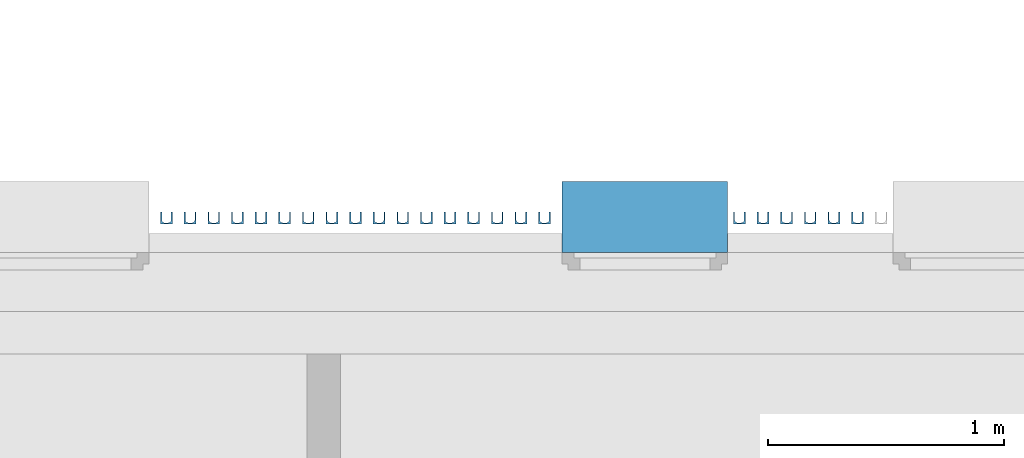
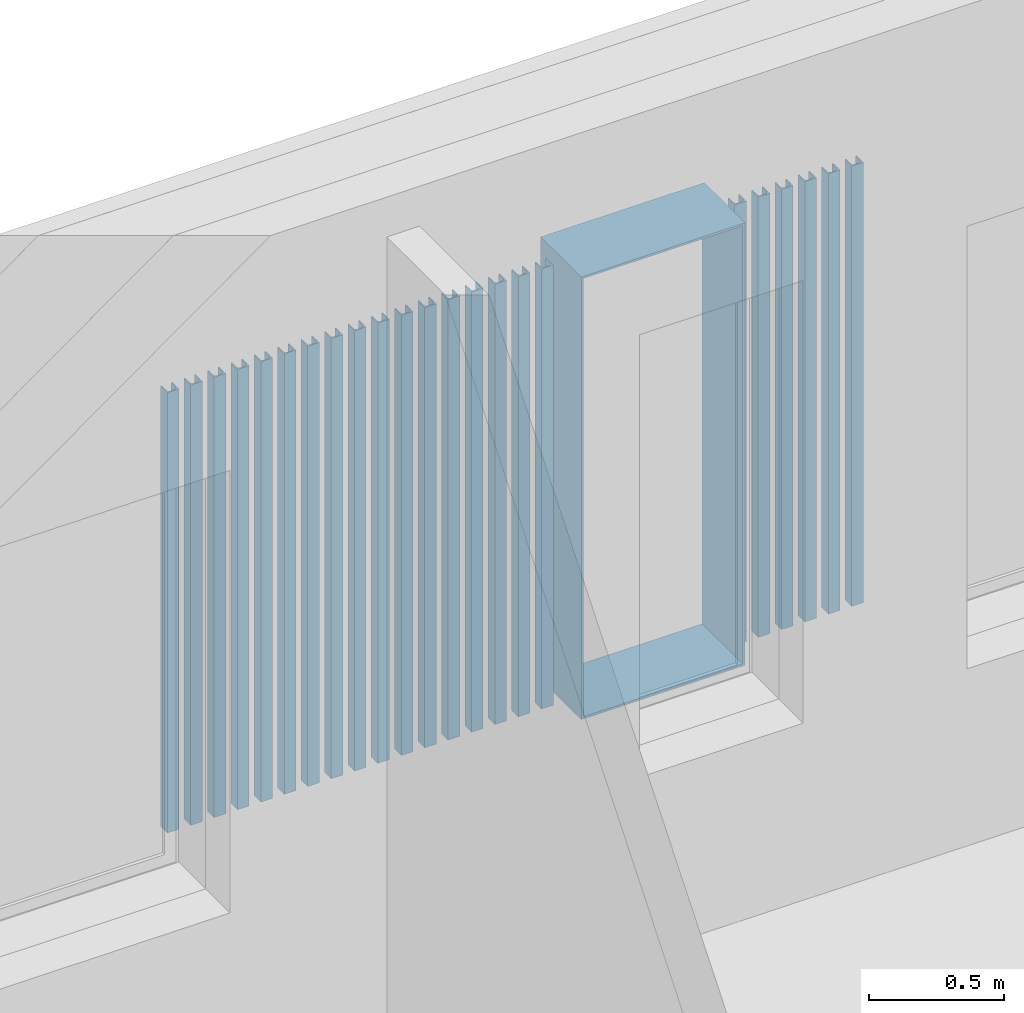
# One storey, part 22 of 100: 24 discrete accessories.
"""IFC2X3 building model written with IfcOpenShell, lengths in millimetres."""

from ifc_helpers import new_model, entity, si_unit, converted_unit, derived_unit, money_unit, direction, frame, origin_with_axes, place, context, subcontext, project, spatial, faceted_brep, source, transform, mapped, material, type_object, element, save


model = new_model("IFC2X3")

# Units and contexts
model_context = context("Model", 3, precision=0.01, world=origin_with_axes(), true_north=direction((0.0, 1.0)))
body_context = subcontext(model_context, "Body", "Model", "MODEL_VIEW")
ifc_project = project(units=[si_unit("LENGTHUNIT", "METRE", prefix="MILLI"), si_unit("AREAUNIT", "SQUARE_METRE"), si_unit("VOLUMEUNIT", "CUBIC_METRE"), converted_unit("PLANEANGLEUNIT", "DEGREE", entity("IfcPlaneAngleMeasure", 0.0174532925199), si_unit("PLANEANGLEUNIT", "RADIAN"), dimensions=[0, 0, 0, 0, 0, 0, 0]), si_unit("SOLIDANGLEUNIT", "STERADIAN"), money_unit("EUR"), converted_unit("TIMEUNIT", "Year", entity("IfcTimeMeasure", 31556926.0), si_unit("TIMEUNIT", "SECOND"), dimensions=[0, 0, 1, 0, 0, 0, 0]), si_unit("MASSUNIT", "GRAM", prefix="KILO"), si_unit("THERMODYNAMICTEMPERATUREUNIT", "DEGREE_CELSIUS"), si_unit("LUMINOUSINTENSITYUNIT", "LUMEN"), si_unit("ENERGYUNIT", "JOULE", prefix="MEGA"), derived_unit("THERMALCONDUCTANCEUNIT", [(si_unit("POWERUNIT", "WATT"), 1), (si_unit("LENGTHUNIT", "METRE"), -1), (si_unit("THERMODYNAMICTEMPERATUREUNIT", "KELVIN"), -1)]), derived_unit("SPECIFICHEATCAPACITYUNIT", [(si_unit("ENERGYUNIT", "JOULE"), 1), (si_unit("MASSUNIT", "GRAM", prefix="KILO"), -1), (si_unit("THERMODYNAMICTEMPERATUREUNIT", "KELVIN"), -1)]), derived_unit("MASSDENSITYUNIT", [(si_unit("MASSUNIT", "GRAM", prefix="KILO"), 1), (si_unit("VOLUMEUNIT", "CUBIC_METRE"), -1)])], contexts=[model_context])

# Site, building, storey
site_placement = place(None, origin_with_axes())
site = spatial("IfcSite", under=ifc_project, at=site_placement, Name="Politse- ja Piirivalveameti ning Päästeameti ühishoone", CompositionType="ELEMENT")
building_placement = place(site_placement, origin_with_axes())
building = spatial("IfcBuilding", under=site, at=building_placement, Name="Politse- ja Piirivalveameti ning Päästeameti ühishoone", CompositionType="ELEMENT")
storey_placement = place(building_placement, frame((0.0, 0.0, 3800.0), z_axis=(0.0, 0.0, 1.0), x_axis=(1.0, 0.0, 0.0)))
storey = spatial("IfcBuildingStorey", under=building, at=storey_placement, Name="Teine korrus", CompositionType="ELEMENT", Elevation=3800.0)

# Discrete accessories
ifc_material_1 = material(Name="SV-01_Krohv - Kips")
discrete_accessory_type_1 = type_object("IfcDiscreteAccessoryType", Name="Architrave 01 23")
shared_shape_1 = source(origin_with_axes(), body_context, "Body", "Brep", [
    faceted_brep([(350.0, 0.0, -10.0), (350.0, -300.182356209, -10.0), (-350.0, -300.182356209, -10.0), (-350.0, 0.0, -10.0), (340.0, 0.0, 0.0), (340.0, -300.182356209, 0.0), (-340.0, -300.182356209, 0.0), (-340.0, 0.0, 0.0)], [[[0, 1, 2, 3]], [[4, 5, 1, 0]], [[1, 5, 6, 2]], [[3, 2, 6, 7]], [[0, 3, 7, 4]], [[7, 6, 5, 4]]]),
    faceted_brep([(-350.0, 0.0, -10.0), (-350.0, -300.182356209, -10.0), (-350.0, -300.182356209, 1990.0), (-350.0, 0.0, 1990.0), (-340.0, 0.0, 0.0), (-340.0, -300.182356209, 0.0), (-340.0, -300.182356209, 1980.0), (-340.0, 0.0, 1980.0)], [[[0, 1, 2, 3]], [[4, 5, 1, 0]], [[1, 5, 6, 2]], [[3, 2, 6, 7]], [[0, 3, 7, 4]], [[7, 6, 5, 4]]]),
    faceted_brep([(-350.0, 0.0, 1990.0), (-350.0, -300.182356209, 1990.0), (350.0, -300.182356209, 1990.0), (350.0, 0.0, 1990.0), (-340.0, 0.0, 1980.0), (-340.0, -300.182356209, 1980.0), (340.0, -300.182356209, 1980.0), (340.0, 0.0, 1980.0)], [[[0, 1, 2, 3]], [[4, 5, 1, 0]], [[1, 5, 6, 2]], [[3, 2, 6, 7]], [[0, 3, 7, 4]], [[7, 6, 5, 4]]]),
    faceted_brep([(350.0, 0.0, 1990.0), (350.0, -300.182356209, 1990.0), (350.0, -300.182356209, -10.0), (350.0, 0.0, -10.0), (340.0, 0.0, 1980.0), (340.0, -300.182356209, 1980.0), (340.0, -300.182356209, 0.0), (340.0, 0.0, 0.0)], [[[0, 1, 2, 3]], [[4, 5, 1, 0]], [[1, 5, 6, 2]], [[3, 2, 6, 7]], [[0, 3, 7, 4]], [[7, 6, 5, 4]]]),
])
discrete_accessory_placement = place(storey_placement, frame((28708.8836062, 21429.9520832, 810.0), z_axis=(0.0, 0.0, 1.0), x_axis=(-1.0, 0.0, 0.0)))
element("IfcDiscreteAccessory", 1, at=discrete_accessory_placement, inside=storey, type_object=discrete_accessory_type_1, material=ifc_material_1, Name="AKNARAAM 01", context=body_context, shape_type="MappedRepresentation", body=[
    mapped(shared_shape_1, transform((0.0, 0.0, 0.0))),
])
ifc_material_2 = material(Name="ET-05_Teras")
discrete_accessory_type_2 = type_object("IfcDiscreteAccessoryType", Name="UAP Column 23")
shared_shape_2 = source(origin_with_axes(), body_context, "Body", "Brep", [
    faceted_brep([(-25.0, -25.0, 0.0), (-25.0, -25.0, 1990.0), (-25.0, -20.0, 1990.0), (-25.0, -20.0, 0.0), (25.0, -25.0, 0.0), (25.0, -25.0, 1990.0), (25.0, 25.0, 1990.0), (-25.0, 25.0, 1990.0), (-25.0, 20.0, 1990.0), (8.5, 20.0, 1990.0), (14.25, 18.4592921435, 1990.0), (18.4592921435, 14.25, 1990.0), (20.0, 8.5, 1990.0), (20.0, -8.5, 1990.0), (18.4592921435, -14.25, 1990.0), (14.25, -18.4592921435, 1990.0), (8.5, -20.0, 1990.0), (8.5, -20.0, 0.0), (14.25, -18.4592921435, 0.0), (18.4592921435, -14.25, 0.0), (20.0, -8.5, 0.0), (20.0, 8.5, 0.0), (18.4592921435, 14.25, 0.0), (14.25, 18.4592921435, 0.0), (8.5, 20.0, 0.0), (-25.0, 20.0, 0.0), (-25.0, 25.0, 0.0), (25.0, 25.0, 0.0)], [[[0, 1, 2, 3]], [[4, 5, 1, 0]], [[1, 5, 6, 7, 8, 9, 10, 11, 12, 13, 14, 15, 16, 2]], [[3, 2, 16, 17]], [[0, 3, 17, 18, 19, 20, 21, 22, 23, 24, 25, 26, 27, 4]], [[27, 6, 5, 4]], [[26, 7, 6, 27]], [[25, 8, 7, 26]], [[24, 9, 8, 25]], [[23, 10, 9, 24]], [[22, 11, 10, 23]], [[21, 12, 11, 22]], [[20, 13, 12, 21]], [[19, 14, 13, 20]], [[18, 15, 14, 19]], [[17, 16, 15, 18]]]),
])
for number, where, z_axis, x_axis in (
    (2, (28283.8835834, 21574.5961555, 810.000049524), (0.0, 0.0, 1.0), (1.30049800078e-07, -1.0, 0.0)),
    (3, (27983.8835834, 21574.5961165, 810.000049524), (0.0, 0.0, 1.0), (1.30049800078e-07, -1.0, 0.0)),
    (4, (28083.8835834, 21574.5961295, 810.000049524), (0.0, 0.0, 1.0), (1.30049800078e-07, -1.0, 0.0)),
    (5, (28183.8835834, 21574.5961425, 810.000049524), (0.0, 0.0, 1.0), (1.30049800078e-07, -1.0, 0.0)),
    (6, (27683.8835834, 21574.5960775, 810.000049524), (0.0, 0.0, 1.0), (1.30049800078e-07, -1.0, 0.0)),
    (7, (27783.8835834, 21574.5960905, 810.000049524), (0.0, 0.0, 1.0), (1.30049800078e-07, -1.0, 0.0)),
    (8, (27883.8835834, 21574.5961035, 810.000049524), (0.0, 0.0, 1.0), (1.30049800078e-07, -1.0, 0.0)),
    (9, (27383.8835834, 21574.5960385, 810.000049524), (0.0, 0.0, 1.0), (1.30049800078e-07, -1.0, 0.0)),
    (10, (27483.8835834, 21574.5960515, 810.000049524), (0.0, 0.0, 1.0), (1.30049800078e-07, -1.0, 0.0)),
    (11, (27583.8835834, 21574.5960645, 810.000049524), (0.0, 0.0, 1.0), (1.30049800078e-07, -1.0, 0.0)),
    (12, (27183.8835834, 21574.5960125, 810.000049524), (0.0, 0.0, 1.0), (1.30049800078e-07, -1.0, 0.0)),
    (13, (27283.8835834, 21574.5960255, 810.000049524), (0.0, 0.0, 1.0), (1.30049800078e-07, -1.0, 0.0)),
    (14, (26883.8835834, 21574.5959735, 810.000049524), (0.0, 0.0, 1.0), (1.30049800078e-07, -1.0, 0.0)),
    (15, (26983.8835834, 21574.5959865, 810.000049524), (0.0, 0.0, 1.0), (1.30049800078e-07, -1.0, 0.0)),
    (16, (27083.8835834, 21574.5959995, 810.000049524), (0.0, 0.0, 1.0), (1.30049800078e-07, -1.0, 0.0)),
    (17, (26683.8835834, 21574.5959474, 810.000049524), (0.0, 0.0, 1.0), (1.30049800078e-07, -1.0, 0.0)),
    (18, (26783.8835834, 21574.5959604, 810.000049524), (0.0, 0.0, 1.0), (1.30049800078e-07, -1.0, 0.0)),
    (19, (29408.8835834, 21574.5961165, 810.000049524), (0.0, 0.0, 1.0), (1.30049800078e-07, -1.0, 0.0)),
    (20, (29508.8835834, 21574.5961295, 810.000049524), (0.0, 0.0, 1.0), (1.30049800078e-07, -1.0, 0.0)),
    (21, (29608.8835834, 21574.5961425, 810.000049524), (0.0, 0.0, 1.0), (1.30049800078e-07, -1.0, 0.0)),
    (22, (29108.8835834, 21574.5960775, 810.000049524), (0.0, 0.0, 1.0), (1.30049800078e-07, -1.0, 0.0)),
    (23, (29208.8835834, 21574.5960905, 810.000049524), (0.0, 0.0, 1.0), (1.30049800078e-07, -1.0, 0.0)),
    (24, (29308.8835834, 21574.5961035, 810.000049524), (0.0, 0.0, 1.0), (1.30049800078e-07, -1.0, 0.0)),
):
    element("IfcDiscreteAccessory", number, at=place(storey_placement, frame(where, z_axis=z_axis, x_axis=x_axis)), inside=storey, type_object=discrete_accessory_type_2, material=ifc_material_2, Name="Fassaadiribid", context=body_context, shape_type="MappedRepresentation", body=[
        mapped(shared_shape_2, transform((0.0, 0.0, 0.0))),
    ])

save(model, "model.ifc")
